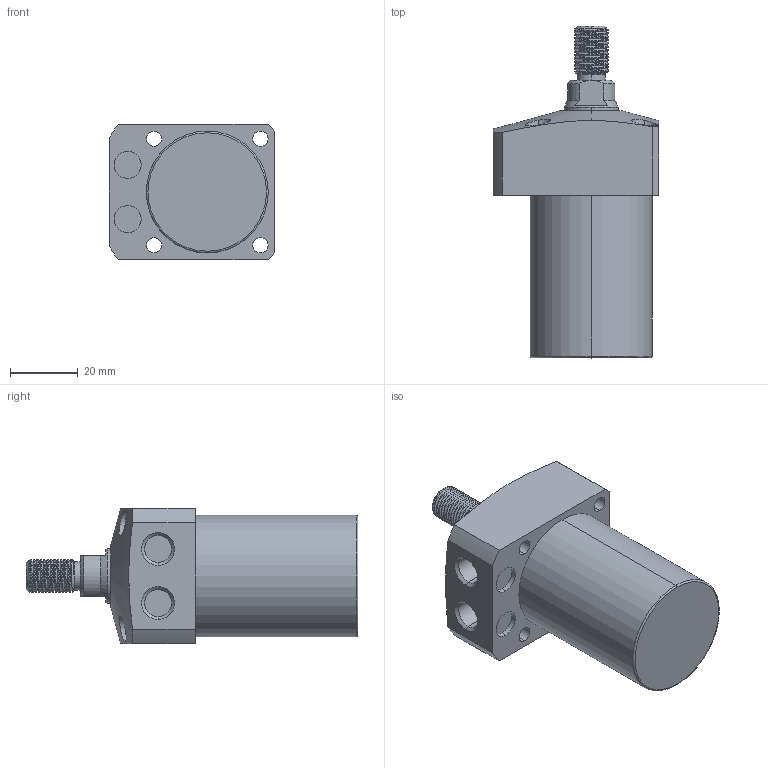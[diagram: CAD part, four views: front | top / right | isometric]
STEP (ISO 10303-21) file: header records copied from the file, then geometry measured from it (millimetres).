
FILE_DESCRIPTION (( 'STEP AP203' ), '1' );
FILE_NAME ('CLL-036CT-040.STEP', '2020-01-08T08:30:41', ( '' ), ( '' ), 'SwSTEP 2.0', 'SolidWorks 2015', '' );
FILE_SCHEMA (( 'CONFIG_CONTROL_DESIGN' ));
Length unit declared in the file: millimetre
Products named in the file (1): CLL-036CT-040
Bounding box: 49 x 98 x 40 mm (x, y, z)
Volume: 91753.4 mm3; surface area: 16094.7 mm2
Topology: 1 solids, 1 shells, 103 faces, 256 edges, 166 vertices
Faces by surface type: cylinder 61, plane 23, cone 15, torus 2, bspline 2
Entity records: 5014 total; most frequent: CARTESIAN_POINT 2618, ORIENTED_EDGE 512, DIRECTION 457, EDGE_CURVE 256, AXIS2_PLACEMENT_3D 184, VERTEX_POINT 166, EDGE_LOOP 122, ADVANCED_FACE 103
